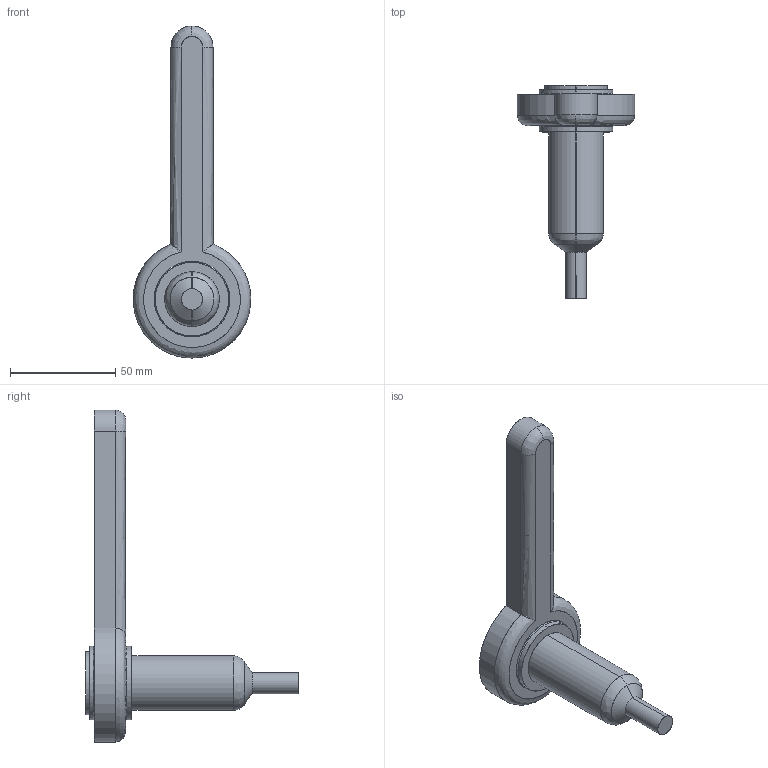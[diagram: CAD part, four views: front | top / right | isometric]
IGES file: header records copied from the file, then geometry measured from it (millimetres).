
Start section: SolidWorks IGES file using analytic representation for surfaces
Global section: file name: C:\Documents and Settings\ws-20\Desktop\TEM\Sede UGEP3151-S-A C-59 L-79 P-25.IGS; native system: SolidWorks 2012; preprocessor: SolidWorks 2012; author: ws-20; date: 120404.085429; units: millimetre
Bounding box: 56 x 101.15 x 158 mm (x, y, z)
Surface area: 19380.6 mm2 (no closed solid volume)
Topology: 0 solids, 0 shells, 34 faces, 754 edges, 754 vertices
Faces by surface type: revolution 21, bspline 13
